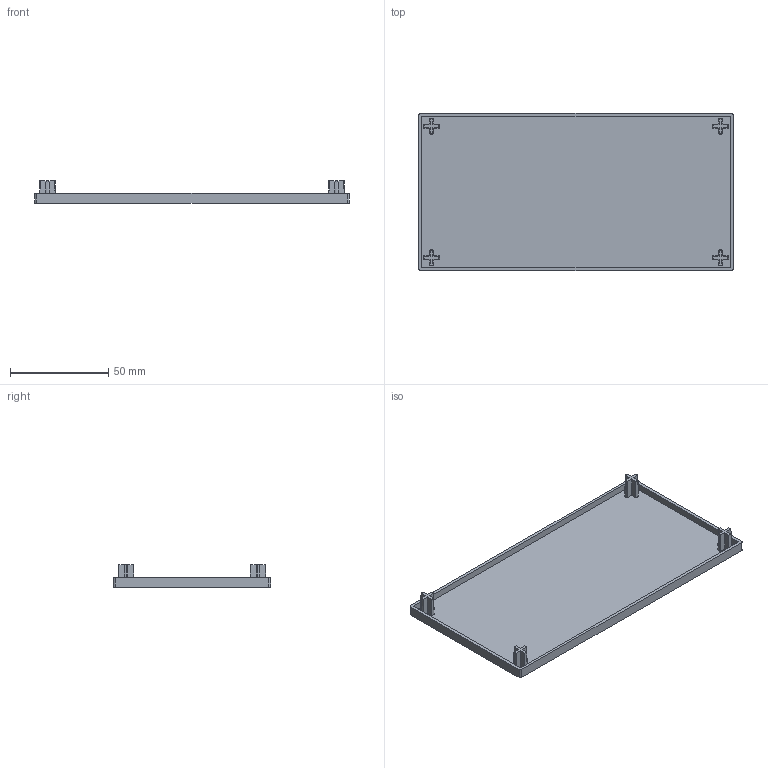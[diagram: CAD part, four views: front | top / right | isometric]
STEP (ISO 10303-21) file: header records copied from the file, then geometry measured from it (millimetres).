
FILE_DESCRIPTION (( 'STEP AP203' ), '1' );
FILE_NAME ('EC80160-8.STEP', '2024-02-19T05:56:40', ( '' ), ( '' ), 'SwSTEP 2.0', 'SolidWorks 2022', '' );
FILE_SCHEMA (( 'CONFIG_CONTROL_DESIGN' ));
Length unit declared in the file: millimetre
Products named in the file (1): EC80160-8
Bounding box: 160 x 80 x 11.5 mm (x, y, z)
Volume: 22654.3 mm3; surface area: 30823.8 mm2
Topology: 1 solids, 1 shells, 71 faces, 192 edges, 128 vertices
Faces by surface type: plane 47, cone 20, cylinder 4
Entity records: 2439 total; most frequent: CARTESIAN_POINT 584, ORIENTED_EDGE 384, DIRECTION 352, EDGE_CURVE 192, VERTEX_POINT 128, AXIS2_PLACEMENT_3D 120, VECTOR 112, LINE 112
